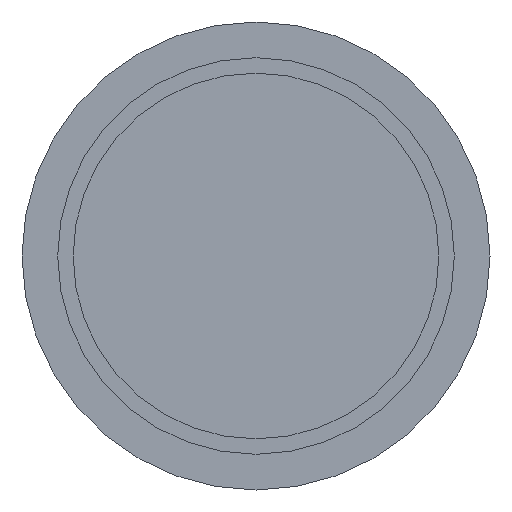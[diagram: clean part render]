
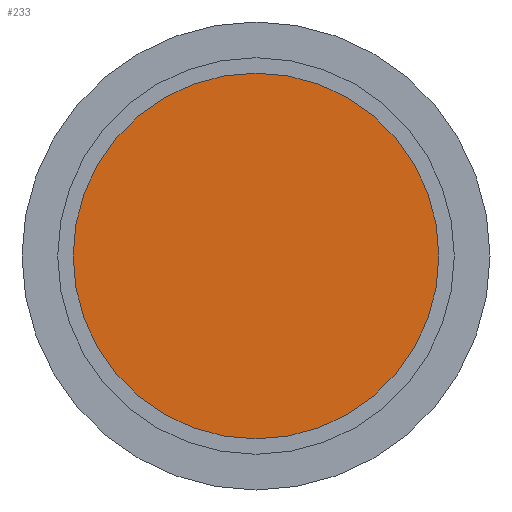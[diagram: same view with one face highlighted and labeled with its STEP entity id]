
A CAD part, left-side view. The second image highlights one B-rep face of the part: STEP entity #233.
In plain terms, the highlighted planar face has unit normal (-1, 0, 0).
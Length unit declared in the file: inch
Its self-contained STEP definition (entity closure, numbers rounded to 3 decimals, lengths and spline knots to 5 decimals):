
#19=PLANE('',#285);
#41=FACE_OUTER_BOUND('',#54,.T.);
#54=EDGE_LOOP('',(#188,#189));
#81=CIRCLE('',#286,0.7425);
#82=CIRCLE('',#287,0.7425);
#106=VERTEX_POINT('',#432);
#107=VERTEX_POINT('',#433);
#136=EDGE_CURVE('',#106,#107,#81,.T.);
#137=EDGE_CURVE('',#107,#106,#82,.T.);
#188=ORIENTED_EDGE('',*,*,#136,.F.);
#189=ORIENTED_EDGE('',*,*,#137,.F.);
#233=ADVANCED_FACE('',(#41),#19,.T.);
#285=AXIS2_PLACEMENT_3D('',#431,#356,#357);
#286=AXIS2_PLACEMENT_3D('',#434,#358,#359);
#287=AXIS2_PLACEMENT_3D('',#435,#360,#361);
#356=DIRECTION('center_axis',(-1.,0.,0.));
#357=DIRECTION('ref_axis',(0.,0.,1.));
#358=DIRECTION('center_axis',(1.,0.,0.));
#359=DIRECTION('ref_axis',(0.,1.,0.));
#360=DIRECTION('center_axis',(1.,0.,0.));
#361=DIRECTION('ref_axis',(0.,1.,0.));
#431=CARTESIAN_POINT('Origin',(0.855,0.37125,0.));
#432=CARTESIAN_POINT('',(0.855,0.7425,0.));
#433=CARTESIAN_POINT('',(0.855,-0.7425,0.));
#434=CARTESIAN_POINT('Origin',(0.855,0.,0.));
#435=CARTESIAN_POINT('Origin',(0.855,0.,0.));
